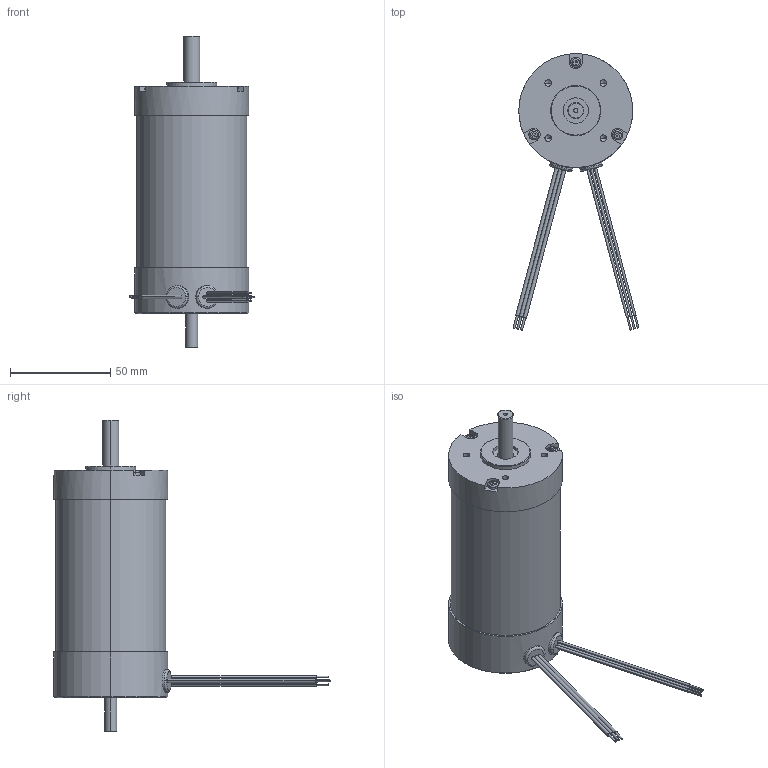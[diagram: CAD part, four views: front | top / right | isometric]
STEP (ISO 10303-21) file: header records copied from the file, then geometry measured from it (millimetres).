
FILE_DESCRIPTION (( 'STEP AP214' ), '1' );
FILE_NAME ('BLWR235D.STEP', '2013-07-24T21:48:20', ( '' ), ( '' ), 'SwSTEP 2.0', 'SolidWorks 2013', '' );
FILE_SCHEMA (( 'AUTOMOTIVE_DESIGN' ));
Length unit declared in the file: inch
Products named in the file (1): BLWR235D
Bounding box: 62.81 x 137.75 x 155.45 mm (x, y, z)
Volume: 278227.4 mm3; surface area: 30616.5 mm2
Topology: 1 solids, 1 shells, 289 faces, 707 edges, 444 vertices
Faces by surface type: plane 129, cylinder 110, cone 36, torus 14
Entity records: 12486 total; most frequent: CARTESIAN_POINT 1851, DIRECTION 1487, ORIENTED_EDGE 1378, EDGE_CURVE 689, AXIS2_PLACEMENT_3D 580, VERTEX_POINT 444, EDGE_LOOP 331, VECTOR 327
